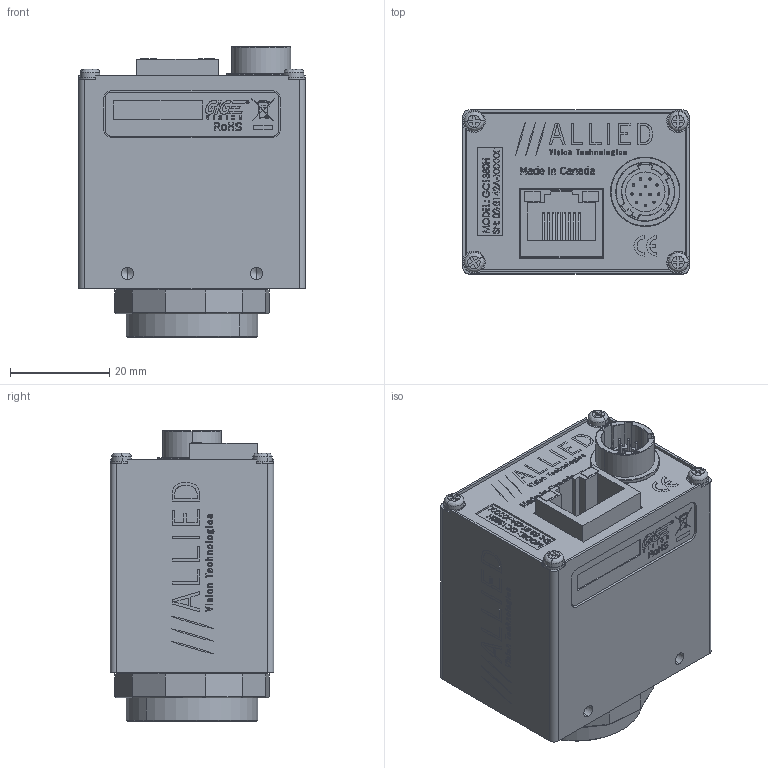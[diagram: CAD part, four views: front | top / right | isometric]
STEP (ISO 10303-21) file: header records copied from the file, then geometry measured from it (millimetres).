
FILE_DESCRIPTION (( 'STEP AP214' ), '1' );
FILE_NAME ('GC1380H.STEP', '2013-07-31T19:16:39', ( '' ), ( '' ), 'SwSTEP 2.0', 'SolidWorks 2013', '' );
FILE_SCHEMA (( 'AUTOMOTIVE_DESIGN' ));
Length unit declared in the file: millimetre
Products named in the file (19): 110042C GC-CCD FRONT_Finished with logo; 110031A-B EC-CCD LOCKING RING; 740032B-GC MAIN LABEL; 260034-HIROSE HR10A-10R-12PB; 740072A-GC1380H LABEL PRINT; 220053-SONY ICX285AL; Sony ICX285 WINDOW; Sony ICX285 BODY; 110003AC-CV CMOUNT RING; 140013-washer spring lock M2; 110043A GC BACK PLATE; 110043A GC BACK PLATE - WO HW; 740123A-GC MAC LABEL; 110045B-EC-CCD DUST SHIELD GASKET; 140023-SCREW SKT CAP M2x10 SS; 200047A-A GC INTERFACE PCB ASSY; 260033-AMPHENOL RJHS-3381; 140017-SCREW PAN M2x4 SS; GC1380H
Assembly tree (27 placements, depth 3):
  GC1380H
    140017-SCREW PAN M2x4 SS  x4
    200047A-A GC INTERFACE PCB ASSY
      260033-AMPHENOL RJHS-3381
    140023-SCREW SKT CAP M2x10 SS  x2
    110045B-EC-CCD DUST SHIELD GASKET
    740123A-GC MAC LABEL
    110043A GC BACK PLATE
      110043A GC BACK PLATE - WO HW
    140013-washer spring lock M2  x6
    110003AC-CV CMOUNT RING
    220053-SONY ICX285AL
      Sony ICX285 BODY
      Sony ICX285 WINDOW
    740072A-GC1380H LABEL PRINT
    260034-HIROSE HR10A-10R-12PB
    110031A-B EC-CCD LOCKING RING
    110042C GC-CCD FRONT_Finished with logo
    740032B-GC MAIN LABEL
Bounding box: 45.72 x 33.02 x 58.67 mm (x, y, z)
Volume: 23381.4 mm3; surface area: 33540.1 mm2
Topology: 24 solids, 24 shells, 3244 faces, 8530 edges, 5546 vertices
Faces by surface type: plane 1850, bspline 913, cylinder 301, cone 180
Entity records: 162683 total; most frequent: CARTESIAN_POINT 56864, ORIENTED_EDGE 16236, DIRECTION 11522, EDGE_CURVE 8118, VECTOR 5608, LINE 5608, VERTEX_POINT 5328, EDGE_LOOP 3446
